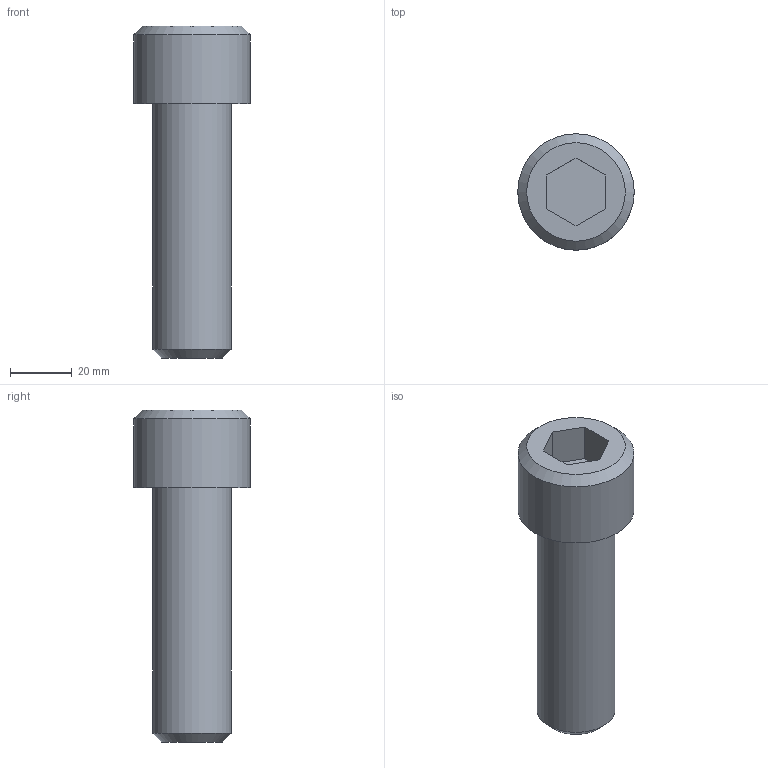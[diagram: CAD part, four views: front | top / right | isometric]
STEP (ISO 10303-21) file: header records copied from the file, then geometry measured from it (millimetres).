
FILE_DESCRIPTION((''),'2;1');
FILE_NAME('C:\Users\Stan\Desktop\import\SHCS 1-8 UNCx3.25.ipt.step','2011-08-18T17:44:15',(''),(''),'Autodesk Inventor 2012','Autodesk Inventor 2012','');
FILE_SCHEMA(('AUTOMOTIVE_DESIGN { 1 0 10303 214 1 1 1 1 }'));
Length unit declared in the file: inch
Products named in the file (1): SHCS 1-8 UNCx3.25
Bounding box: 37.8 x 37.8 x 107.8 mm (x, y, z)
Volume: 65421.6 mm3; surface area: 12300 mm2
Topology: 1 solids, 1 shells, 14 faces, 28 edges, 18 vertices
Faces by surface type: plane 10, cone 2, cylinder 2
Full cylindrical faces by diameter (mm): 25.4 x1, 37.795 x1
Entity records: 391 total; most frequent: DIRECTION 60, CARTESIAN_POINT 57, ORIENTED_EDGE 48, EDGE_CURVE 24, AXIS2_PLACEMENT_3D 21, EDGE_LOOP 20, VERTEX_POINT 18, VECTOR 18
